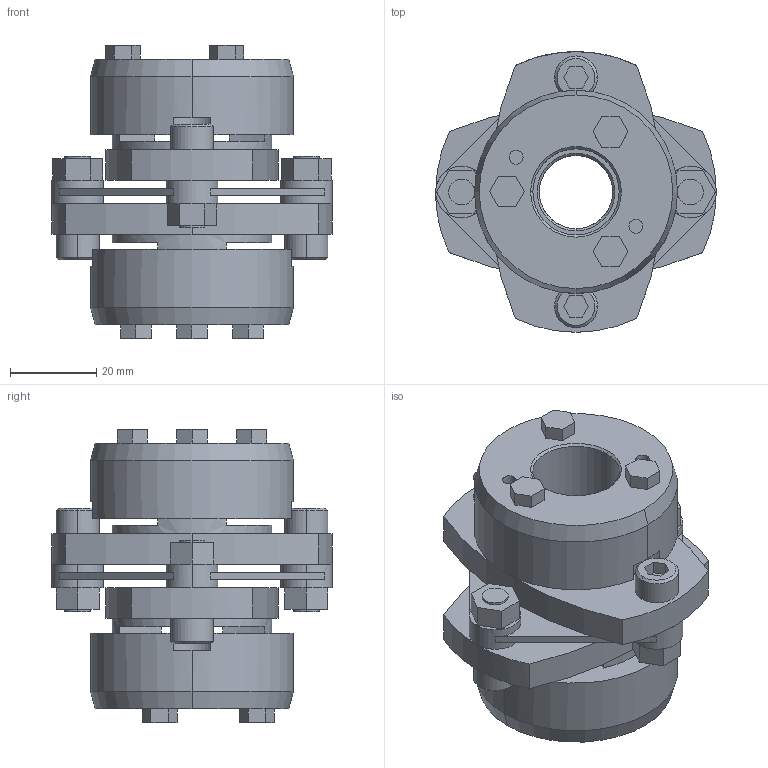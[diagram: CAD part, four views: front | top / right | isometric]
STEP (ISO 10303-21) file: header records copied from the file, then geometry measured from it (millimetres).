
FILE_DESCRIPTION((''),'2;1');
FILE_NAME('LCS-65T7-17×20.stp','2011-08-23T13:21:30',(''),(''),'AutoCAD STEP 2000i','AutoCAD 2000i',', , ');
FILE_SCHEMA(('CONFIG_CONTROL_DESIGN'));
Length unit declared in the file: millimetre
Products named in the file (8): LCS-65T7-17×19; 忣兜1; LC65T7-T019; LC65T7-T017-1; LC65T7-T017; LC65T7-T015-1; LC65T7-T015; LCS65-ITA
Assembly tree (7 placements, depth 2):
  LCS-65T7-17×19
    忣兜1
    LC65T7-T019
    LC65T7-T017-1
    LC65T7-T017
    LC65T7-T015-1
    LC65T7-T015
    LCS65-ITA
Bounding box: 65 x 65 x 67.9 mm (x, y, z)
Volume: 90526.7 mm3; surface area: 30060.5 mm2
Topology: 1 solids, 1 shells, 228 faces, 586 edges, 382 vertices
Faces by surface type: plane 136, cylinder 72, cone 20
Entity records: 7181 total; most frequent: DIRECTION 1268, CARTESIAN_POINT 1204, ORIENTED_EDGE 1172, EDGE_CURVE 586, AXIS2_PLACEMENT_3D 446, VERTEX_POINT 382, VECTOR 376, LINE 376
